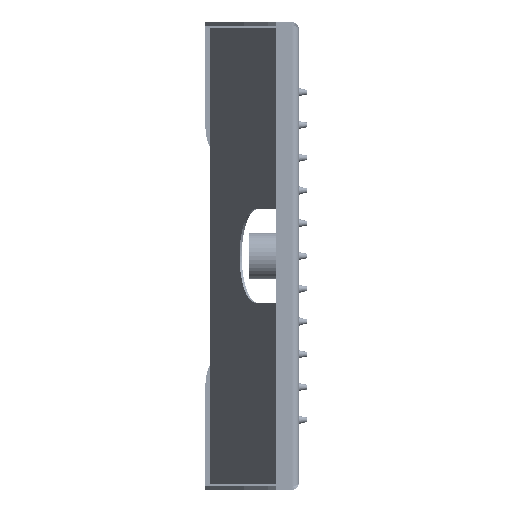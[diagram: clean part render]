
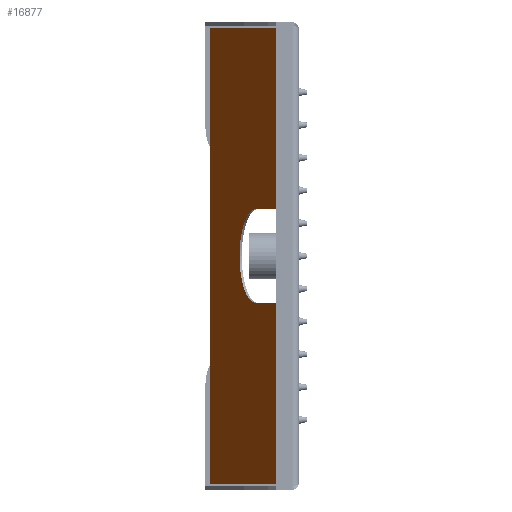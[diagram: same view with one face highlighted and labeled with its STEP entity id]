
A CAD part, left-side view. The second image highlights one B-rep face of the part: STEP entity #16877.
In plain terms, the highlighted planar face has unit normal (-0.322, 0.947, 0).
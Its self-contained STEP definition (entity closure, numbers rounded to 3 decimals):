
#920=DIRECTION('',(-0.947,-0.322,0.));
#921=VECTOR('',#920,0.34);
#922=CARTESIAN_POINT('',(185.895,-1.398,-20.));
#923=LINE('',#922,#921);
#942=DIRECTION('',(-0.947,-0.322,0.));
#943=VECTOR('',#942,27.794);
#944=CARTESIAN_POINT('',(185.574,-1.507,-20.));
#945=LINE('',#944,#943);
#946=CARTESIAN_POINT('',(192.863,0.969,18.747));
#947=CARTESIAN_POINT('',(192.199,0.743,18.994));
#948=CARTESIAN_POINT('',(189.959,-0.018,19.695));
#949=CARTESIAN_POINT('',(187.562,-0.832,20.));
#950=CARTESIAN_POINT('',(185.895,-1.398,20.));
#952=CARTESIAN_POINT('',(191.638,0.553,-19.158));
#953=CARTESIAN_POINT('',(192.93,0.992,-18.77));
#954=CARTESIAN_POINT('',(195.655,1.917,-17.636));
#955=CARTESIAN_POINT('',(199.199,3.121,-15.15));
#956=CARTESIAN_POINT('',(202.045,4.088,-12.022));
#957=CARTESIAN_POINT('',(203.995,4.75,-8.761));
#958=CARTESIAN_POINT('',(205.196,5.158,-5.557));
#959=CARTESIAN_POINT('',(205.696,5.328,-3.102));
#960=CARTESIAN_POINT('',(205.87,5.387,-1.273));
#961=CARTESIAN_POINT('',(205.908,5.4,0.));
#962=CARTESIAN_POINT('',(205.87,5.387,1.273));
#963=CARTESIAN_POINT('',(205.696,5.328,3.102));
#964=CARTESIAN_POINT('',(205.196,5.158,5.557));
#965=CARTESIAN_POINT('',(203.995,4.75,8.761));
#966=CARTESIAN_POINT('',(202.045,4.088,12.022));
#967=CARTESIAN_POINT('',(199.199,3.121,15.15));
#968=CARTESIAN_POINT('',(195.987,2.03,17.403));
#969=CARTESIAN_POINT('',(193.712,1.257,18.431));
#970=CARTESIAN_POINT('',(192.863,0.969,18.747));
#972=CARTESIAN_POINT('',(185.895,-1.398,-20.));
#973=CARTESIAN_POINT('',(187.562,-0.832,
-20.));
#974=CARTESIAN_POINT('',(189.517,-0.168,
-19.752));
#975=CARTESIAN_POINT('',(191.367,0.461,-19.239));
#976=CARTESIAN_POINT('',(191.638,0.553,-19.158));
#982=DIRECTION('',(0.,0.,-1.));
#983=VECTOR('',#982,77.5);
#984=CARTESIAN_POINT('',(159.257,-10.447,-20.));
#985=LINE('',#984,#983);
#995=DIRECTION('',(0.947,0.322,0.));
#996=VECTOR('',#995,88.112);
#997=CARTESIAN_POINT('',(159.257,-10.447,-97.5));
#998=LINE('',#997,#996);
#1063=DIRECTION('',(-0.947,-0.322,0.));
#1064=VECTOR('',#1063,88.124);
#1065=CARTESIAN_POINT('',(242.695,17.896,97.5));
#1066=LINE('',#1065,#1064);
#1114=DIRECTION('',(0.,0.,-1.));
#1115=VECTOR('',#1114,77.5);
#1116=CARTESIAN_POINT('',(159.253,-10.448,97.5));
#1117=LINE('',#1116,#1115);
#1145=DIRECTION('',(0.947,0.322,0.));
#1146=VECTOR('',#1145,0.34);
#1147=CARTESIAN_POINT('',(185.574,-1.507,20.));
#1148=LINE('',#1147,#1146);
#1149=DIRECTION('',(0.947,0.322,0.));
#1150=VECTOR('',#1149,27.798);
#1151=CARTESIAN_POINT('',(159.253,-10.448,20.));
#1152=LINE('',#1151,#1150);
#1280=DIRECTION('',(0.,0.,1.));
#1281=VECTOR('',#1280,195.);
#1282=CARTESIAN_POINT('',(242.687,17.894,-97.5));
#1283=LINE('',#1282,#1281);
#12563=CARTESIAN_POINT('',(159.257,-10.447,-20.));
#12564=CARTESIAN_POINT('',(159.257,-10.447,-97.5));
#12565=VERTEX_POINT('',#12563);
#12566=VERTEX_POINT('',#12564);
#12567=CARTESIAN_POINT('',(185.574,-1.507,-20.));
#12568=VERTEX_POINT('',#12567);
#12569=CARTESIAN_POINT('',(185.895,-1.398,
-20.));
#12570=VERTEX_POINT('',#12569);
#12571=VERTEX_POINT('',#976);
#12572=VERTEX_POINT('',#970);
#12573=VERTEX_POINT('',#950);
#12574=CARTESIAN_POINT('',(185.574,-1.507,20.));
#12575=VERTEX_POINT('',#12574);
#12576=CARTESIAN_POINT('',(159.253,-10.448,20.));
#12577=VERTEX_POINT('',#12576);
#12578=CARTESIAN_POINT('',(159.253,-10.448,97.5));
#12579=VERTEX_POINT('',#12578);
#12580=CARTESIAN_POINT('',(242.695,17.896,97.5));
#12581=VERTEX_POINT('',#12580);
#12582=CARTESIAN_POINT('',(242.687,17.894,-97.5));
#12583=VERTEX_POINT('',#12582);
#16848=CARTESIAN_POINT('',(201.05,3.75,-97.502));
#16849=DIRECTION('',(0.322,-0.947,0.));
#16850=DIRECTION('',(0.947,0.322,0.));
#16851=AXIS2_PLACEMENT_3D('',#16848,#16849,#16850);
#16852=PLANE('',#16851);
#16854=ORIENTED_EDGE('',*,*,#16853,.T.);
#16856=ORIENTED_EDGE('',*,*,#16855,.T.);
#16858=ORIENTED_EDGE('',*,*,#16857,.T.);
#16860=ORIENTED_EDGE('',*,*,#16859,.T.);
#16862=ORIENTED_EDGE('',*,*,#16861,.T.);
#16864=ORIENTED_EDGE('',*,*,#16863,.T.);
#16866=ORIENTED_EDGE('',*,*,#16865,.T.);
#16868=ORIENTED_EDGE('',*,*,#16867,.F.);
#16870=ORIENTED_EDGE('',*,*,#16869,.F.);
#16872=ORIENTED_EDGE('',*,*,#16871,.F.);
#16873=ORIENTED_EDGE('',*,*,#16830,.T.);
#16874=ORIENTED_EDGE('',*,*,#16843,.T.);
#16875=EDGE_LOOP('',(#16854,#16856,#16858,#16860,#16862,#16864,#16866,#16868,
#16870,#16872,#16873,#16874));
#16876=FACE_OUTER_BOUND('',#16875,.F.);
#16877=ADVANCED_FACE('',(#16876),#16852,.F.);
#951=B_SPLINE_CURVE_WITH_KNOTS('',3,(#946,#947,#948,#949,#950),.UNSPECIFIED.,
.F.,.F.,(4,1,4),(0.,0.305,1.),.UNSPECIFIED.);
#971=B_SPLINE_CURVE_WITH_KNOTS('',3,(#952,#953,#954,#955,#956,#957,#958,#959,
#960,#961,#962,#963,#964,#965,#966,#967,#968,#969,#970),.UNSPECIFIED.,.F.,.F.,
(4,1,1,1,1,1,1,1,1,1,1,1,1,1,1,1,4),(0.,0.062,0.136,
0.211,0.286,0.361,0.435,
0.473,0.51,0.547,0.585,
0.659,0.734,0.809,0.883,
0.958,1.),.UNSPECIFIED.);
#977=B_SPLINE_CURVE_WITH_KNOTS('',3,(#972,#973,#974,#975,#976),.UNSPECIFIED.,
.F.,.F.,(4,1,4),(0.,0.852,1.),.UNSPECIFIED.);
#16830=EDGE_CURVE('',#12570,#12568,#923,.T.);
#16843=EDGE_CURVE('',#12568,#12565,#945,.T.);
#16853=EDGE_CURVE('',#12565,#12566,#985,.T.);
#16855=EDGE_CURVE('',#12566,#12583,#998,.T.);
#16857=EDGE_CURVE('',#12583,#12581,#1283,.T.);
#16859=EDGE_CURVE('',#12581,#12579,#1066,.T.);
#16861=EDGE_CURVE('',#12579,#12577,#1117,.T.);
#16863=EDGE_CURVE('',#12577,#12575,#1152,.T.);
#16865=EDGE_CURVE('',#12575,#12573,#1148,.T.);
#16867=EDGE_CURVE('',#12572,#12573,#951,.T.);
#16869=EDGE_CURVE('',#12571,#12572,#971,.T.);
#16871=EDGE_CURVE('',#12570,#12571,#977,.T.);
